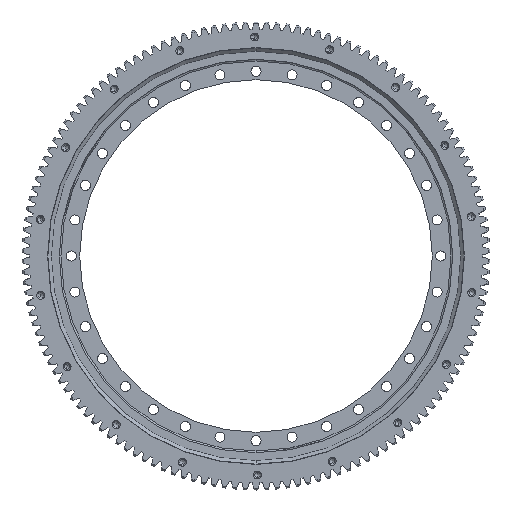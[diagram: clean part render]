
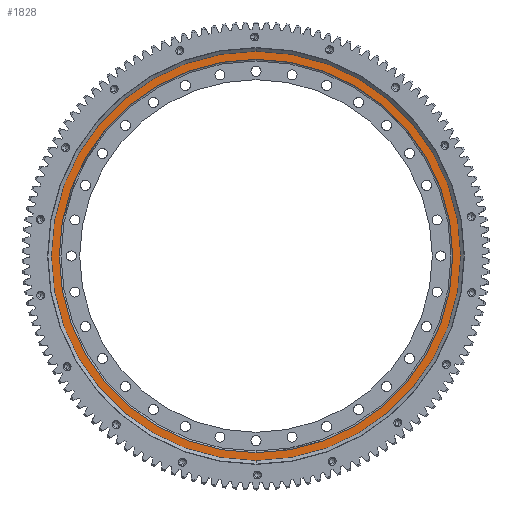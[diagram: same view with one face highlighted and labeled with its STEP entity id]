
A CAD part, front view. The second image highlights one B-rep face of the part: STEP entity #1828.
In plain terms, the highlighted planar face has unit normal (0, -1, 0).
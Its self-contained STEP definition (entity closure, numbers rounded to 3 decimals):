
#77 = EDGE_CURVE ( 'NONE', #20891, #312, #8598, .T. ) ;
#296 = DIRECTION ( 'NONE',  ( 0., 0., -1. ) ) ;
#312 = VERTEX_POINT ( 'NONE', #7219 ) ;
#428 = VERTEX_POINT ( 'NONE', #33262 ) ;
#448 = DIRECTION ( 'NONE',  ( 0., 1., 0. ) ) ;
#636 = ORIENTED_EDGE ( 'NONE', *, *, #77, .F. ) ;
#1828 = ADVANCED_FACE ( 'NONE', ( #34718, #9566 ), #28684, .F. ) ;
#2448 = VERTEX_POINT ( 'NONE', #22019 ) ;
#2857 = EDGE_LOOP ( 'NONE', ( #636, #15530 ) ) ;
#2901 = EDGE_CURVE ( 'NONE', #428, #2448, #24153, .T. ) ;
#3083 = CARTESIAN_POINT ( 'NONE',  ( 0., 9.134, -352.5 ) ) ;
#3530 = CARTESIAN_POINT ( 'NONE',  ( -371.5, 9.134, 0. ) ) ;
#5125 = DIRECTION ( 'NONE',  ( 0., -1., 0. ) ) ;
#6021 = AXIS2_PLACEMENT_3D ( 'NONE', #14216, #11087, #24845 ) ;
#7219 = CARTESIAN_POINT ( 'NONE',  ( 0., 9.134, 352.5 ) ) ;
#8598 = CIRCLE ( 'NONE', #23826, 352.5 ) ;
#9566 = FACE_OUTER_BOUND ( 'NONE', #11441, .T. ) ;
#10462 = EDGE_CURVE ( 'NONE', #312, #20891, #29547, .T. ) ;
#10590 = ORIENTED_EDGE ( 'NONE', *, *, #2901, .T. ) ;
#10653 = AXIS2_PLACEMENT_3D ( 'NONE', #22543, #5125, #33008 ) ;
#11087 = DIRECTION ( 'NONE',  ( 0., -1., 0. ) ) ;
#11441 = EDGE_LOOP ( 'NONE', ( #24689, #10590 ) ) ;
#11455 = CARTESIAN_POINT ( 'NONE',  ( 0., 9.134, 0. ) ) ;
#11623 = DIRECTION ( 'NONE',  ( 0., 0., 1. ) ) ;
#12423 = CIRCLE ( 'NONE', #10653, 371.5 ) ;
#14216 = CARTESIAN_POINT ( 'NONE',  ( 0., 9.134, 0. ) ) ;
#15530 = ORIENTED_EDGE ( 'NONE', *, *, #10462, .F. ) ;
#19004 = AXIS2_PLACEMENT_3D ( 'NONE', #11455, #33836, #22824 ) ;
#19738 = CARTESIAN_POINT ( 'NONE',  ( 0., 9.134, 0. ) ) ;
#20891 = VERTEX_POINT ( 'NONE', #3083 ) ;
#22019 = CARTESIAN_POINT ( 'NONE',  ( 0., 9.134, -371.5 ) ) ;
#22543 = CARTESIAN_POINT ( 'NONE',  ( 0., 9.134, 0. ) ) ;
#22824 = DIRECTION ( 'NONE',  ( 0., 0., -1. ) ) ;
#23826 = AXIS2_PLACEMENT_3D ( 'NONE', #19738, #25219, #296 ) ;
#24153 = CIRCLE ( 'NONE', #6021, 371.5 ) ;
#24689 = ORIENTED_EDGE ( 'NONE', *, *, #35109, .T. ) ;
#24845 = DIRECTION ( 'NONE',  ( 0., 0., -1. ) ) ;
#25219 = DIRECTION ( 'NONE',  ( 0., -1., 0. ) ) ;
#28684 = PLANE ( 'NONE',  #32990 ) ;
#29547 = CIRCLE ( 'NONE', #19004, 352.5 ) ;
#32990 = AXIS2_PLACEMENT_3D ( 'NONE', #3530, #448, #11623 ) ;
#33008 = DIRECTION ( 'NONE',  ( 0., 0., -1. ) ) ;
#33262 = CARTESIAN_POINT ( 'NONE',  ( 0., 9.134, 371.5 ) ) ;
#33836 = DIRECTION ( 'NONE',  ( 0., -1., 0. ) ) ;
#34718 = FACE_BOUND ( 'NONE', #2857, .T. ) ;
#35109 = EDGE_CURVE ( 'NONE', #2448, #428, #12423, .T. ) ;
